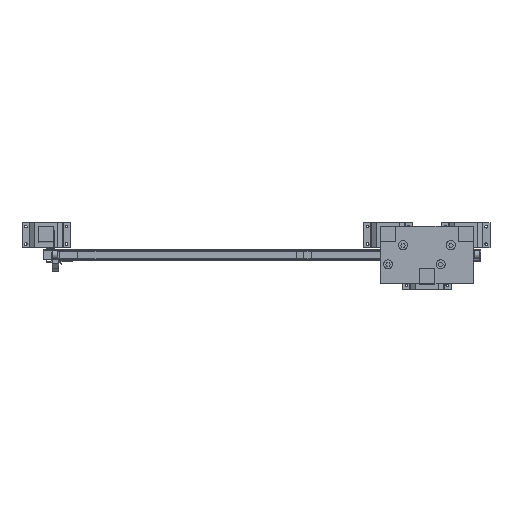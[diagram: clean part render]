
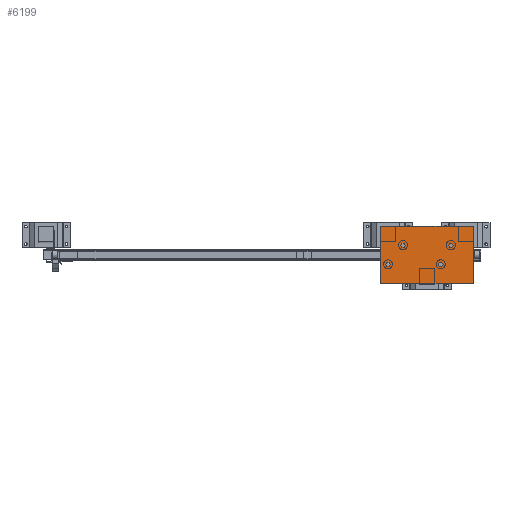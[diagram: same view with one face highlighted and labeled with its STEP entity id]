
A CAD part, top view. The second image highlights one B-rep face of the part: STEP entity #6199.
In plain terms, the highlighted planar face has unit normal (0, 0, 1).
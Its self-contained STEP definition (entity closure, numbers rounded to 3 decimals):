
#716=FACE_OUTER_BOUND('',#1185,.T.);
#1185=EDGE_LOOP('',(#4412,#4413,#4414,#4415));
#1788=VERTEX_POINT('',#14074);
#1789=VERTEX_POINT('',#14075);
#1790=VERTEX_POINT('',#14077);
#1791=VERTEX_POINT('',#14079);
#2755=EDGE_CURVE('',#1788,#1789,#7594,.T.);
#2756=EDGE_CURVE('',#1790,#1788,#7595,.T.);
#2757=EDGE_CURVE('',#1790,#1791,#7596,.T.);
#2758=EDGE_CURVE('',#1789,#1791,#7597,.T.);
#4412=ORIENTED_EDGE('',*,*,#2755,.F.);
#4413=ORIENTED_EDGE('',*,*,#2756,.F.);
#4414=ORIENTED_EDGE('',*,*,#2757,.T.);
#4415=ORIENTED_EDGE('',*,*,#2758,.F.);
#5760=PLANE('',#9570);
#6199=ADVANCED_FACE('',(#716),#5760,.T.);
#7594=LINE('',#14076,#8753);
#7595=LINE('',#14078,#8754);
#7596=LINE('',#14080,#8755);
#7597=LINE('',#14081,#8756);
#8753=VECTOR('',#11147,1.);
#8754=VECTOR('',#11148,1.);
#8755=VECTOR('',#11149,1.);
#8756=VECTOR('',#11150,1.);
#9570=AXIS2_PLACEMENT_3D('',#14073,#11145,#11146);
#11145=DIRECTION('center_axis',(0.,0.,1.));
#11146=DIRECTION('ref_axis',(1.,0.,0.));
#11147=DIRECTION('',(0.,1.,0.));
#11148=DIRECTION('',(-1.,0.,0.));
#11149=DIRECTION('',(0.,1.,0.));
#11150=DIRECTION('',(1.,0.,0.));
#14073=CARTESIAN_POINT('Origin',(3334.404,1784.689,2333.));
#14074=CARTESIAN_POINT('',(3334.404,1784.689,2333.));
#14075=CARTESIAN_POINT('',(3334.404,2014.689,2333.));
#14076=CARTESIAN_POINT('',(3334.404,1784.689,2333.));
#14077=CARTESIAN_POINT('',(3704.404,1784.689,2333.));
#14078=CARTESIAN_POINT('',(3704.404,1784.689,2333.));
#14079=CARTESIAN_POINT('',(3704.404,2014.689,2333.));
#14080=CARTESIAN_POINT('',(3704.404,1784.689,2333.));
#14081=CARTESIAN_POINT('',(3519.404,2014.689,2333.));
